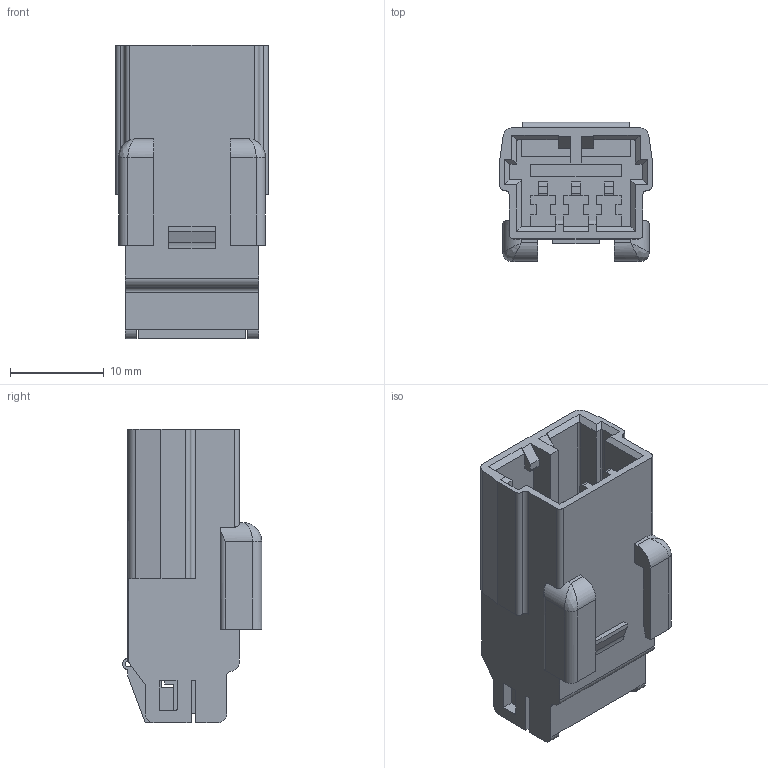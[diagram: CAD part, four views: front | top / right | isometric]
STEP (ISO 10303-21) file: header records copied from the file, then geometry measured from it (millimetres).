
FILE_DESCRIPTION((''),'2;1');
FILE_NAME('C-174928-1','2021-01-12T09:14:27',('workeradm'),('TE Connectivity Ltd.'),'CREO PARAMETRIC BY PTC INC, 2019292','CREO PARAMETRIC BY PTC INC, 2019292','');
FILE_SCHEMA(('AUTOMOTIVE_DESIGN { 1 0 10303 214 1 1 1 1 }'));
Length unit declared in the file: millimetre
Products named in the file (1): C-174928-1
Bounding box: 16.3 x 14.9 x 31.4 mm (x, y, z)
Volume: 3609 mm3; surface area: 3508.6 mm2
Topology: 1 solids, 1 shells, 357 faces, 1018 edges, 664 vertices
Faces by surface type: plane 303, cylinder 50, bspline 2, sphere 2
Entity records: 11986 total; most frequent: CARTESIAN_POINT 2297, ORIENTED_EDGE 2036, DIRECTION 1778, EDGE_CURVE 1018, VECTOR 912, LINE 912, VERTEX_POINT 664, AXIS2_PLACEMENT_3D 433
